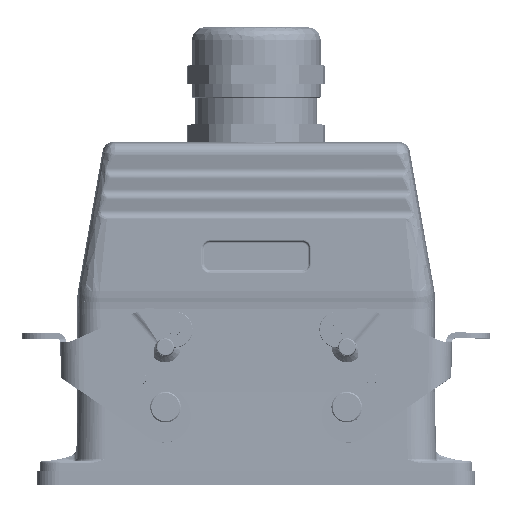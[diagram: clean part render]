
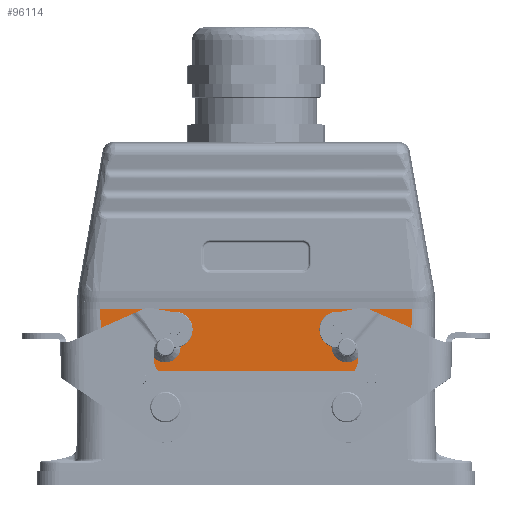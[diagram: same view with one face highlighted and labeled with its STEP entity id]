
A CAD part, top view. The second image highlights one B-rep face of the part: STEP entity #96114.
In plain terms, the highlighted planar face has unit normal (0, 0, 1) as drawn and (0, -1, 0) by its records, which use the part's own axes.
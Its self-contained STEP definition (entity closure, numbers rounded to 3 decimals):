
#318 = VERTEX_POINT ( 'NONE', #245826 ) ;
#1557 = B_SPLINE_CURVE_WITH_KNOTS ( 'NONE', 3,
 ( #270918, #272564, #168710, #21873, #140698 ),
 .UNSPECIFIED., .F., .F.,
 ( 4, 1, 4 ),
 ( 0., 0.652, 1. ),
 .UNSPECIFIED. ) ;
#7807 = DIRECTION ( 'NONE',  ( 0., 0., 1. ) ) ;
#13382 = DIRECTION ( 'NONE',  ( 0., 1., 0. ) ) ;
#14416 = DIRECTION ( 'NONE',  ( 0., 1., 0. ) ) ;
#14449 = ORIENTED_EDGE ( 'NONE', *, *, #215638, .T. ) ;
#15292 = DIRECTION ( 'NONE',  ( 0., 1., 0. ) ) ;
#17228 = CARTESIAN_POINT ( 'NONE',  ( -73.25, -21.5, 0. ) ) ;
#18510 = CARTESIAN_POINT ( 'NONE',  ( -23.75, -21.5, 6.3 ) ) ;
#21873 = CARTESIAN_POINT ( 'NONE',  ( 40.012, -21.5, 1.888 ) ) ;
#30501 = CARTESIAN_POINT ( 'NONE',  ( -23.75, -21.5, 2.3 ) ) ;
#32360 = CARTESIAN_POINT ( 'NONE',  ( -40.845, -21.5, 16.289 ) ) ;
#37422 = EDGE_CURVE ( 'NONE', #325519, #91503, #145458, .T. ) ;
#37964 = VECTOR ( 'NONE', #159834, 1000. ) ;
#38296 = CARTESIAN_POINT ( 'NONE',  ( 23.75, -21.5, 2.3 ) ) ;
#39179 = CARTESIAN_POINT ( 'NONE',  ( 23.75, -21.5, 6.3 ) ) ;
#40054 = CARTESIAN_POINT ( 'NONE',  ( -40.713, -21.5, 13.357 ) ) ;
#40752 = DIRECTION ( 'NONE',  ( -1., 0., 0. ) ) ;
#42036 = PLANE ( 'NONE',  #226805 ) ;
#44879 = CARTESIAN_POINT ( 'NONE',  ( -40.419, -21.5, 8.146 ) ) ;
#48136 = CARTESIAN_POINT ( 'NONE',  ( -40.46, -21.5, 8.799 ) ) ;
#49768 = CARTESIAN_POINT ( 'NONE',  ( -40.42, -21.5, 8.154 ) ) ;
#53417 = ORIENTED_EDGE ( 'NONE', *, *, #166460, .T. ) ;
#59341 = ORIENTED_EDGE ( 'NONE', *, *, #37422, .T. ) ;
#61469 = ORIENTED_EDGE ( 'NONE', *, *, #158740, .T. ) ;
#68342 = DIRECTION ( 'NONE',  ( 0., -1., 0. ) ) ;
#71204 = CARTESIAN_POINT ( 'NONE',  ( -39.889, -21.5, 0. ) ) ;
#71500 = EDGE_CURVE ( 'NONE', #97246, #94838, #1557, .T. ) ;
#76117 = CARTESIAN_POINT ( 'NONE',  ( -40.163, -21.5, 4.123 ) ) ;
#83306 = AXIS2_PLACEMENT_3D ( 'NONE', #110733, #13382, #165098 ) ;
#85583 = LINE ( 'NONE', #286818, #37964 ) ;
#89507 = AXIS2_PLACEMENT_3D ( 'NONE', #18510, #15292, #119096 ) ;
#91503 = VERTEX_POINT ( 'NONE', #138598 ) ;
#92729 = CARTESIAN_POINT ( 'NONE',  ( -40.657, -21.5, 12.255 ) ) ;
#94361 = CARTESIAN_POINT ( 'NONE',  ( -40.206, -21.5, 4.795 ) ) ;
#94838 = VERTEX_POINT ( 'NONE', #266673 ) ;
#96114 = ADVANCED_FACE ( 'NONE', ( #112982, #243178, #294366 ), #42036, .T. ) ;
#97246 = VERTEX_POINT ( 'NONE', #288674 ) ;
#110733 = CARTESIAN_POINT ( 'NONE',  ( -23.75, -21.5, 6.3 ) ) ;
#112982 = FACE_OUTER_BOUND ( 'NONE', #299784, .T. ) ;
#119080 = CARTESIAN_POINT ( 'NONE',  ( -40.571, -21.5, 10.662 ) ) ;
#119096 = DIRECTION ( 'NONE',  ( 0., 0., 1. ) ) ;
#120700 = CARTESIAN_POINT ( 'NONE',  ( -40.421, -21.5, 8.166 ) ) ;
#129683 = AXIS2_PLACEMENT_3D ( 'NONE', #258473, #233743, #7807 ) ;
#134018 = EDGE_CURVE ( 'NONE', #318, #94838, #85583, .T. ) ;
#138598 = CARTESIAN_POINT ( 'NONE',  ( 23.75, -21.5, 10.3 ) ) ;
#140698 = CARTESIAN_POINT ( 'NONE',  ( 39.889, -21.5, 0. ) ) ;
#142949 = DIRECTION ( 'NONE',  ( 0., 0., 1. ) ) ;
#143822 = CARTESIAN_POINT ( 'NONE',  ( -40.498, -21.5, 9.438 ) ) ;
#145458 = CIRCLE ( 'NONE', #129683, 4. ) ;
#147118 = CARTESIAN_POINT ( 'NONE',  ( -40.424, -21.5, 8.225 ) ) ;
#147432 = CIRCLE ( 'NONE', #89507, 4. ) ;
#148744 = CARTESIAN_POINT ( 'NONE',  ( -40.161, -21.5, 4.097 ) ) ;
#149051 = EDGE_CURVE ( 'NONE', #190470, #318, #193152, .T. ) ;
#150367 = CARTESIAN_POINT ( 'NONE',  ( -40.171, -21.5, 4.255 ) ) ;
#152837 = VERTEX_POINT ( 'NONE', #30501 ) ;
#156291 = VECTOR ( 'NONE', #40752, 1000. ) ;
#158740 = EDGE_CURVE ( 'NONE', #91503, #325519, #273464, .T. ) ;
#159834 = DIRECTION ( 'NONE',  ( 1., 0., 0. ) ) ;
#165098 = DIRECTION ( 'NONE',  ( 0., 0., 1. ) ) ;
#166460 = EDGE_CURVE ( 'NONE', #97246, #190470, #296288, .T. ) ;
#168623 = CARTESIAN_POINT ( 'NONE',  ( -40.623, -21.5, 11.618 ) ) ;
#168710 = CARTESIAN_POINT ( 'NONE',  ( 40.377, -21.5, 7.314 ) ) ;
#176651 = ORIENTED_EDGE ( 'NONE', *, *, #149051, .T. ) ;
#187970 = ORIENTED_EDGE ( 'NONE', *, *, #245328, .T. ) ;
#190470 = VERTEX_POINT ( 'NONE', #32360 ) ;
#193152 = B_SPLINE_CURVE_WITH_KNOTS ( 'NONE', 3,
 ( #290765, #218092, #265956, #40054, #216495, #317095, #318705, #292356, #92729, #193311, #168623, #119080, #143822, #48136, #298871, #320347, #147118, #295622, #120700, #49768, #44879, #270826, #300485, #221368, #94361, #224636, #150367, #244436, #76117, #148744, #219729, #201465, #249339, #71204 ),
 .UNSPECIFIED., .F., .F.,
 ( 4, 1, 1, 1, 1, 1, 2, 2, 1, 1, 1, 1, 1, 1, 1, 2, 2, 1, 1, 1, 1, 1, 1, 2, 2, 4 ),
 ( 0., 0.125, 0.188, 0.219, 0.234, 0.242, 0.246, 0.25, 0.375, 0.438, 0.469, 0.484, 0.492, 0.496, 0.498, 0.499, 0.5, 0.625, 0.688, 0.719, 0.734, 0.742, 0.746, 0.748, 0.75, 1. ),
 .UNSPECIFIED. ) ;
#193311 = CARTESIAN_POINT ( 'NONE',  ( -40.656, -21.5, 12.233 ) ) ;
#201465 = CARTESIAN_POINT ( 'NONE',  ( -40.06, -21.5, 2.546 ) ) ;
#205506 = CARTESIAN_POINT ( 'NONE',  ( -23.75, -21.5, 10.3 ) ) ;
#214561 = EDGE_LOOP ( 'NONE', ( #61469, #59341 ) ) ;
#215638 = EDGE_CURVE ( 'NONE', #260100, #152837, #147432, .T. ) ;
#216495 = CARTESIAN_POINT ( 'NONE',  ( -40.684, -21.5, 12.782 ) ) ;
#218092 = CARTESIAN_POINT ( 'NONE',  ( -40.815, -21.5, 15.576 ) ) ;
#219729 = CARTESIAN_POINT ( 'NONE',  ( -40.16, -21.5, 4.082 ) ) ;
#221368 = CARTESIAN_POINT ( 'NONE',  ( -40.25, -21.5, 5.482 ) ) ;
#224636 = CARTESIAN_POINT ( 'NONE',  ( -40.183, -21.5, 4.437 ) ) ;
#225532 = CIRCLE ( 'NONE', #83306, 4. ) ;
#226805 = AXIS2_PLACEMENT_3D ( 'NONE', #17228, #68342, #266333 ) ;
#233743 = DIRECTION ( 'NONE',  ( 0., 1., 0. ) ) ;
#243178 = FACE_BOUND ( 'NONE', #214561, .T. ) ;
#244436 = CARTESIAN_POINT ( 'NONE',  ( -40.165, -21.5, 4.163 ) ) ;
#245328 = EDGE_CURVE ( 'NONE', #152837, #260100, #225532, .T. ) ;
#245826 = CARTESIAN_POINT ( 'NONE',  ( -39.889, -21.5, 0. ) ) ;
#249339 = CARTESIAN_POINT ( 'NONE',  ( -39.97, -21.5, 1.189 ) ) ;
#257677 = AXIS2_PLACEMENT_3D ( 'NONE', #39179, #14416, #142949 ) ;
#258473 = CARTESIAN_POINT ( 'NONE',  ( 23.75, -21.5, 6.3 ) ) ;
#260100 = VERTEX_POINT ( 'NONE', #205506 ) ;
#265956 = CARTESIAN_POINT ( 'NONE',  ( -40.769, -21.5, 14.531 ) ) ;
#266333 = DIRECTION ( 'NONE',  ( 0., 0., -1. ) ) ;
#266357 = ORIENTED_EDGE ( 'NONE', *, *, #134018, .T. ) ;
#266666 = CARTESIAN_POINT ( 'NONE',  ( -73.25, -21.5, 16.289 ) ) ;
#266673 = CARTESIAN_POINT ( 'NONE',  ( 39.889, -21.5, 0. ) ) ;
#270826 = CARTESIAN_POINT ( 'NONE',  ( -40.387, -21.5, 7.634 ) ) ;
#270918 = CARTESIAN_POINT ( 'NONE',  ( 40.845, -21.5, 16.289 ) ) ;
#272564 = CARTESIAN_POINT ( 'NONE',  ( 40.706, -21.5, 12.744 ) ) ;
#273464 = CIRCLE ( 'NONE', #257677, 4. ) ;
#286818 = CARTESIAN_POINT ( 'NONE',  ( -13.25, -21.5, 0. ) ) ;
#288674 = CARTESIAN_POINT ( 'NONE',  ( 40.845, -21.5, 16.289 ) ) ;
#289866 = EDGE_LOOP ( 'NONE', ( #14449, #187970 ) ) ;
#290765 = CARTESIAN_POINT ( 'NONE',  ( -40.845, -21.5, 16.289 ) ) ;
#292356 = CARTESIAN_POINT ( 'NONE',  ( -40.659, -21.5, 12.295 ) ) ;
#294366 = FACE_BOUND ( 'NONE', #289866, .T. ) ;
#295622 = CARTESIAN_POINT ( 'NONE',  ( -40.422, -21.5, 8.183 ) ) ;
#296288 = LINE ( 'NONE', #266666, #156291 ) ;
#298871 = CARTESIAN_POINT ( 'NONE',  ( -40.44, -21.5, 8.473 ) ) ;
#299784 = EDGE_LOOP ( 'NONE', ( #176651, #266357, #318840, #53417 ) ) ;
#300485 = CARTESIAN_POINT ( 'NONE',  ( -40.331, -21.5, 6.744 ) ) ;
#317095 = CARTESIAN_POINT ( 'NONE',  ( -40.669, -21.5, 12.497 ) ) ;
#318705 = CARTESIAN_POINT ( 'NONE',  ( -40.662, -21.5, 12.356 ) ) ;
#318840 = ORIENTED_EDGE ( 'NONE', *, *, #71500, .F. ) ;
#320347 = CARTESIAN_POINT ( 'NONE',  ( -40.429, -21.5, 8.308 ) ) ;
#325519 = VERTEX_POINT ( 'NONE', #38296 ) ;
